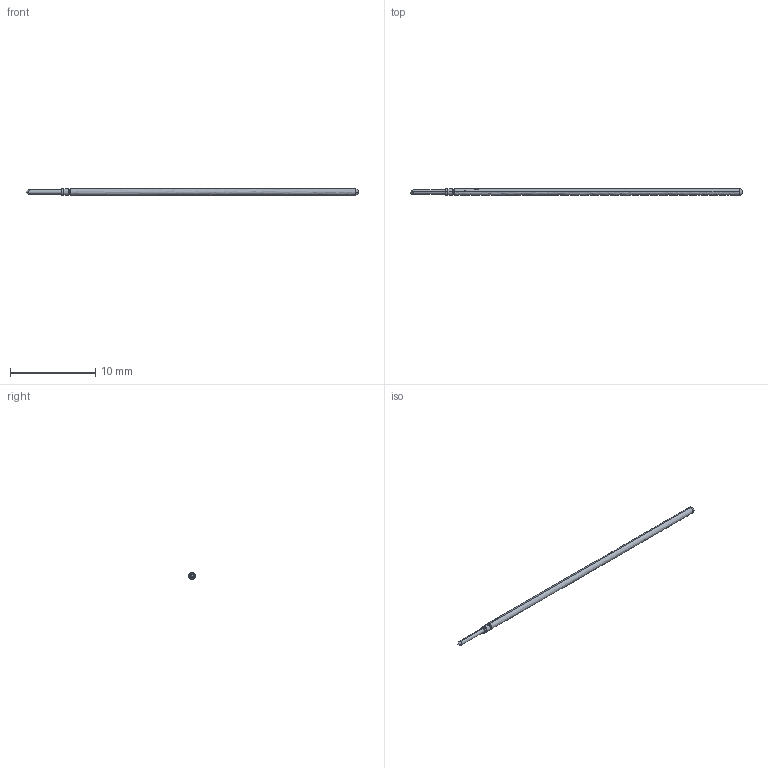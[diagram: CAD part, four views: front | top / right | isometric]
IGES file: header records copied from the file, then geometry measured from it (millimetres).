
Start section: SolidWorks IGES file using analytic representation for surfaces
Global section: file name: L:\probe solid model mockups\Solidworks models\POGO-72T20 RECD.IGS; native system: SolidWorks 2006 by SolidWorks Corporation; preprocessor: SolidWorks 2006 by SolidWorks Corporation; author: Ksnyder; date: 071211.140057; units: inch
Bounding box: 38.94 x 0.79 x 0.79 mm (x, y, z)
Surface area: 175.4 mm2
Topology: 1 solids, 1 shells, 21 faces, 46 edges, 26 vertices
Faces by surface type: revolution 16, plane 5
